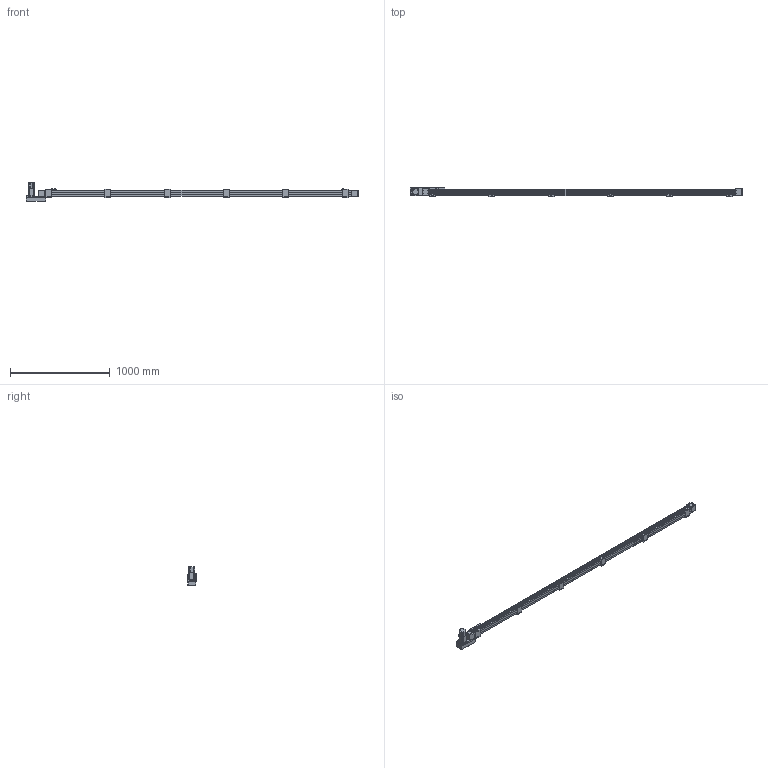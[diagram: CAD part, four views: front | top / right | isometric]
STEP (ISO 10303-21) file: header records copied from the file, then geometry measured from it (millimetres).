
FILE_DESCRIPTION(/* description */ ('STEP AP214'),/* implementation_level */ '2;1');
FILE_NAME(/* name */ 'SK60-P13-S2900-L-T40-C1-N(0)',/* time_stamp */ '2023-04-06T04:12:35+02:00',/* author */ ('License CC BY-ND 4.0'),/* organization */ ('CADENAS'),/* preprocessor_version */ 'ST-DEVELOPER v19.3',/* originating_system */ 'PARTsolutions',/* authorisation */ ' ');
FILE_SCHEMA (('AUTOMOTIVE_DESIGN {1 0 10303 214 3 1 1}'));
Length unit declared in the file: millimetre
Products named in the file (10): SK60-P13-S2900-L-T40-C1-N(0); PSC140-sensor; SK60-S450_seat; SK60-S450-BL-C1_slider; SK60_body3; SK60_body6; SK60-BL_body2; T40-p1; SK60-L_fb; SK60-S2900-L-C1_body
Assembly tree (20 placements, depth 2):
  SK60-P13-S2900-L-T40-C1-N(0)
    PSC140-sensor  x3
    SK60-S450_seat  x6
    SK60-S450-BL-C1_slider
    SK60_body3  x3
    SK60_body6  x2
    SK60-BL_body2  x2
    T40-p1
    SK60-L_fb
    SK60-S2900-L-C1_body
Bounding box: 3320.5 x 90 x 189.7 mm (x, y, z)
Volume: 12065752.8 mm3; surface area: 1409472.6 mm2
Topology: 20 solids, 20 shells, 986 faces, 2440 edges, 1605 vertices
Faces by surface type: plane 620, cylinder 326, cone 38, torus 2
Full cylindrical faces by diameter (mm): 2.8 x3, 3.3 x4, 4 x2, 4.5 x30, 4.6 x3, 4.917 x32, 5 x6, 5.478 x4, 5.5 x35, 6.5 x12, 7 x2, 8 x4, 8.5 x4, 9.988 x4, 10 x24, 14 x1, 47 x3, 50 x2
Entity records: 18687 total; most frequent: DIRECTION 3192, CARTESIAN_POINT 3154, ORIENTED_EDGE 2940, EDGE_CURVE 1470, AXIS2_PLACEMENT_3D 1072, LINE 1048, VECTOR 1048, VERTEX_POINT 1034
